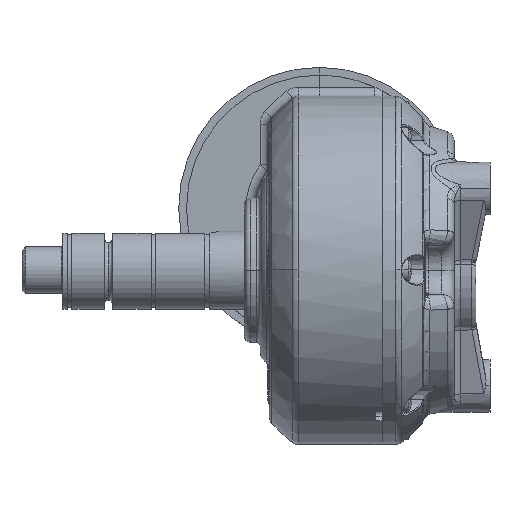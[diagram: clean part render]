
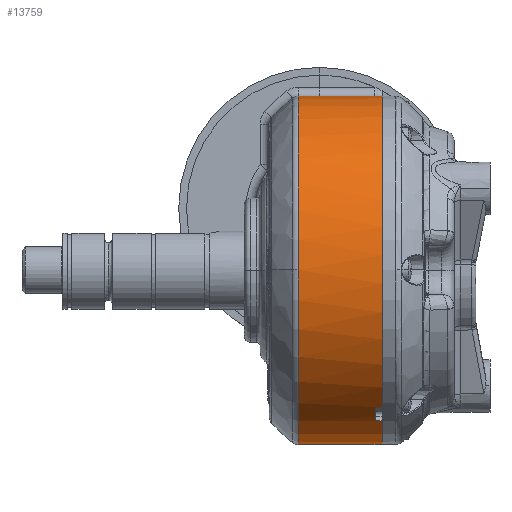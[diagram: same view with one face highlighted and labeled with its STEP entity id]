
A CAD part, top view. The second image highlights one B-rep face of the part: STEP entity #13759.
In plain terms, the highlighted cylindrical face has radius 55.65 mm (diameter 111.3 mm), a partial arc.
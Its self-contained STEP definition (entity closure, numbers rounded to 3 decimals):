
#3843 = CARTESIAN_POINT ( 'NONE',  ( 11., 55.65, 0. ) ) ;
#5900 = CARTESIAN_POINT ( 'NONE',  ( -15.799, 0., 0. ) ) ;
#6127 = CARTESIAN_POINT ( 'NONE',  ( 9., -43.812, 34.313 ) ) ;
#8168 = CARTESIAN_POINT ( 'NONE',  ( 9.667, -48.233, 27.758 ) ) ;
#8449 = VERTEX_POINT ( 'NONE', #173842 ) ;
#8865 = CARTESIAN_POINT ( 'NONE',  ( -15.799, 0., 0. ) ) ;
#10859 = EDGE_CURVE ( 'NONE', #125040, #8449, #112206, .T. ) ;
#11930 = CIRCLE ( 'NONE', #143716, 55.65 ) ;
#13038 = ORIENTED_EDGE ( 'NONE', *, *, #44797, .T. ) ;
#13759 = ADVANCED_FACE ( 'NONE', ( #35167 ), #100128, .T. ) ;
#13884 = LINE ( 'NONE', #150850, #139754 ) ;
#23132 = CARTESIAN_POINT ( 'NONE',  ( 9., -48.227, 27.768 ) ) ;
#25683 = LINE ( 'NONE', #41455, #158467 ) ;
#27071 =( BOUNDED_CURVE ( )  B_SPLINE_CURVE ( 3, ( #71598, #69865, #135631, #123335 ),
 .UNSPECIFIED., .F., .F. ) 
 B_SPLINE_CURVE_WITH_KNOTS ( ( 4, 4 ),
 ( 4.783, 4.784 ),
 .UNSPECIFIED. ) 
 CURVE ( )  GEOMETRIC_REPRESENTATION_ITEM ( )  RATIONAL_B_SPLINE_CURVE ( ( 1., 1., 1., 1. ) ) 
 REPRESENTATION_ITEM ( '' )  );
#33422 = DIRECTION ( 'NONE',  ( 1., 0., 0. ) ) ;
#34495 = EDGE_CURVE ( 'NONE', #143240, #123192, #13884, .T. ) ;
#34945 = EDGE_LOOP ( 'NONE', ( #172721, #144639, #87529, #119014, #13038, #60364, #96718, #160103, #36645 ) ) ;
#35167 = FACE_OUTER_BOUND ( 'NONE', #34945, .T. ) ;
#36197 = DIRECTION ( 'NONE',  ( 0., 0., 1. ) ) ;
#36595 = AXIS2_PLACEMENT_3D ( 'NONE', #135504, #122343, #42484 ) ;
#36645 = ORIENTED_EDGE ( 'NONE', *, *, #152968, .T. ) ;
#41105 = CIRCLE ( 'NONE', #71982, 55.65 ) ;
#41455 = CARTESIAN_POINT ( 'NONE',  ( -25., -55.65, 0. ) ) ;
#42484 = DIRECTION ( 'NONE',  ( 0., 0., -1. ) ) ;
#44797 = EDGE_CURVE ( 'NONE', #125040, #112816, #27071, .T. ) ;
#50360 = CARTESIAN_POINT ( 'NONE',  ( 11., -48.245, 27.738 ) ) ;
#53780 = DIRECTION ( 'NONE',  ( 1., 0., 0. ) ) ;
#60270 = EDGE_CURVE ( 'NONE', #8449, #107167, #132966, .T. ) ;
#60364 = ORIENTED_EDGE ( 'NONE', *, *, #77921, .T. ) ;
#61449 = CARTESIAN_POINT ( 'NONE',  ( 11., -43.791, 34.341 ) ) ;
#61839 = CARTESIAN_POINT ( 'NONE',  ( 10.333, -48.239, 27.748 ) ) ;
#63899 = VERTEX_POINT ( 'NONE', #105171 ) ;
#69865 = CARTESIAN_POINT ( 'NONE',  ( 9.667, -43.805, 34.323 ) ) ;
#71598 = CARTESIAN_POINT ( 'NONE',  ( 9., -43.812, 34.313 ) ) ;
#71925 = DIRECTION ( 'NONE',  ( 0., 0., -1. ) ) ;
#71982 = AXIS2_PLACEMENT_3D ( 'NONE', #5900, #113005, #153453 ) ;
#72820 = CARTESIAN_POINT ( 'NONE',  ( 11., -55.65, 0. ) ) ;
#77921 = EDGE_CURVE ( 'NONE', #112816, #123192, #89658, .T. ) ;
#80248 = VERTEX_POINT ( 'NONE', #72820 ) ;
#87529 = ORIENTED_EDGE ( 'NONE', *, *, #60270, .F. ) ;
#89658 = CIRCLE ( 'NONE', #156972, 55.65 ) ;
#91957 = EDGE_CURVE ( 'NONE', #143240, #63899, #41105, .T. ) ;
#92027 = CIRCLE ( 'NONE', #111492, 55.65 ) ;
#94755 = CARTESIAN_POINT ( 'NONE',  ( -15.799, -55.65, 0. ) ) ;
#96718 = ORIENTED_EDGE ( 'NONE', *, *, #34495, .F. ) ;
#100128 = CYLINDRICAL_SURFACE ( 'NONE', #128177, 55.65 ) ;
#105171 = CARTESIAN_POINT ( 'NONE',  ( -15.799, 0., 55.65 ) ) ;
#107167 = VERTEX_POINT ( 'NONE', #160019 ) ;
#111254 = DIRECTION ( 'NONE',  ( 1., 0., 0. ) ) ;
#111492 = AXIS2_PLACEMENT_3D ( 'NONE', #8865, #156446, #36197 ) ;
#112206 = CIRCLE ( 'NONE', #36595, 55.65 ) ;
#112816 = VERTEX_POINT ( 'NONE', #61449 ) ;
#113005 = DIRECTION ( 'NONE',  ( 1., 0., 0. ) ) ;
#119014 = ORIENTED_EDGE ( 'NONE', *, *, #10859, .F. ) ;
#122343 = DIRECTION ( 'NONE',  ( 1., 0., 0. ) ) ;
#123192 = VERTEX_POINT ( 'NONE', #3843 ) ;
#123335 = CARTESIAN_POINT ( 'NONE',  ( 11., -43.791, 34.341 ) ) ;
#125040 = VERTEX_POINT ( 'NONE', #6127 ) ;
#125348 = EDGE_CURVE ( 'NONE', #80248, #107167, #11930, .T. ) ;
#128177 = AXIS2_PLACEMENT_3D ( 'NONE', #153703, #33422, #170252 ) ;
#130082 = VERTEX_POINT ( 'NONE', #94755 ) ;
#132966 =( BOUNDED_CURVE ( )  B_SPLINE_CURVE ( 3, ( #23132, #8168, #61839, #50360 ),
 .UNSPECIFIED., .F., .T. ) 
 B_SPLINE_CURVE_WITH_KNOTS ( ( 4, 4 ),
 ( 4.783, 4.784 ),
 .UNSPECIFIED. ) 
 CURVE ( )  GEOMETRIC_REPRESENTATION_ITEM ( )  RATIONAL_B_SPLINE_CURVE ( ( 1., 1., 1., 1. ) ) 
 REPRESENTATION_ITEM ( '' )  );
#135257 = DIRECTION ( 'NONE',  ( 0., 0., -1. ) ) ;
#135504 = CARTESIAN_POINT ( 'NONE',  ( 9., 0., 0. ) ) ;
#135631 = CARTESIAN_POINT ( 'NONE',  ( 10.333, -43.798, 34.332 ) ) ;
#138563 = DIRECTION ( 'NONE',  ( -1., 0., 0. ) ) ;
#139754 = VECTOR ( 'NONE', #111254, 1000. ) ;
#143240 = VERTEX_POINT ( 'NONE', #163088 ) ;
#143716 = AXIS2_PLACEMENT_3D ( 'NONE', #164929, #138563, #71925 ) ;
#144639 = ORIENTED_EDGE ( 'NONE', *, *, #125348, .T. ) ;
#150850 = CARTESIAN_POINT ( 'NONE',  ( -25., 55.65, 0. ) ) ;
#152968 = EDGE_CURVE ( 'NONE', #63899, #130082, #92027, .T. ) ;
#153453 = DIRECTION ( 'NONE',  ( 0., 0., 1. ) ) ;
#153703 = CARTESIAN_POINT ( 'NONE',  ( -25., 0., 0. ) ) ;
#156446 = DIRECTION ( 'NONE',  ( 1., 0., 0. ) ) ;
#156972 = AXIS2_PLACEMENT_3D ( 'NONE', #173055, #172161, #135257 ) ;
#158467 = VECTOR ( 'NONE', #53780, 1000. ) ;
#160019 = CARTESIAN_POINT ( 'NONE',  ( 11., -48.245, 27.738 ) ) ;
#160103 = ORIENTED_EDGE ( 'NONE', *, *, #91957, .T. ) ;
#163088 = CARTESIAN_POINT ( 'NONE',  ( -15.799, 55.65, 0. ) ) ;
#164929 = CARTESIAN_POINT ( 'NONE',  ( 11., 0., 0. ) ) ;
#166806 = EDGE_CURVE ( 'NONE', #130082, #80248, #25683, .T. ) ;
#170252 = DIRECTION ( 'NONE',  ( 0., 0., -1. ) ) ;
#172161 = DIRECTION ( 'NONE',  ( -1., 0., 0. ) ) ;
#172721 = ORIENTED_EDGE ( 'NONE', *, *, #166806, .T. ) ;
#173055 = CARTESIAN_POINT ( 'NONE',  ( 11., 0., 0. ) ) ;
#173842 = CARTESIAN_POINT ( 'NONE',  ( 9., -48.227, 27.768 ) ) ;
